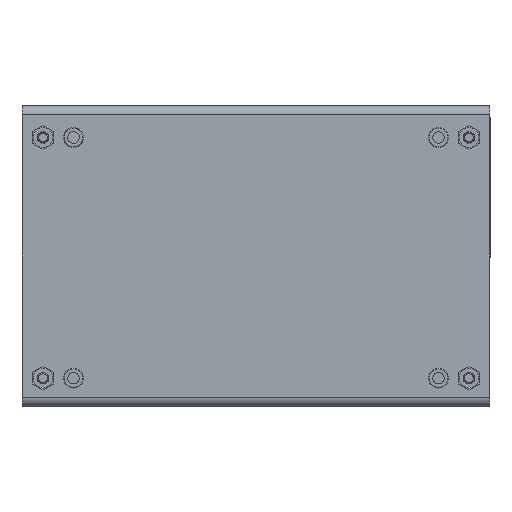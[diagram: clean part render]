
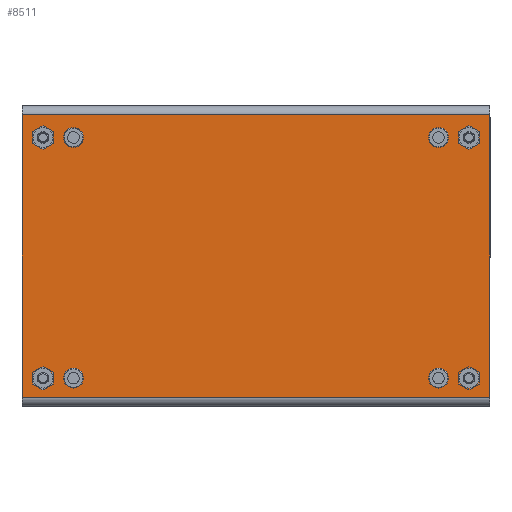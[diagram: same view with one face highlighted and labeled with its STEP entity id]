
A CAD part, front view. The second image highlights one B-rep face of the part: STEP entity #8511.
In plain terms, the highlighted planar face has unit normal (0, -1, 0).
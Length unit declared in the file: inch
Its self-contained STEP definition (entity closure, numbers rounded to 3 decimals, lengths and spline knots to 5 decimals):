
#449 = ORIENTED_EDGE ( 'NONE', *, *, #14475, .T. ) ;
#757 = EDGE_LOOP ( 'NONE', ( #20096 ) ) ;
#794 = FACE_BOUND ( 'NONE', #19135, .T. ) ;
#908 = AXIS2_PLACEMENT_3D ( 'NONE', #19869, #7987, #21825 ) ;
#1424 = CARTESIAN_POINT ( 'NONE',  ( -2.5, 0., -1.50787 ) ) ;
#1911 = DIRECTION ( 'NONE',  ( 0., 0., 1. ) ) ;
#2084 = PLANE ( 'NONE',  #2262 ) ;
#2255 = CARTESIAN_POINT ( 'NONE',  ( 2.5, 0., -1.6063 ) ) ;
#2262 = AXIS2_PLACEMENT_3D ( 'NONE', #2255, #2683, #1911 ) ;
#2346 = EDGE_CURVE ( 'NONE', #18922, #25282, #10644, .T. ) ;
#2683 = DIRECTION ( 'NONE',  ( 0., 1., 0. ) ) ;
#2971 = DIRECTION ( 'NONE',  ( 0., 1., 0. ) ) ;
#3382 = CARTESIAN_POINT ( 'NONE',  ( 1.95, 0., 1.15945 ) ) ;
#3753 = EDGE_CURVE ( 'NONE', #4276, #4276, #4542, .T. ) ;
#4014 = AXIS2_PLACEMENT_3D ( 'NONE', #9498, #9483, #9413 ) ;
#4248 = DIRECTION ( 'NONE',  ( 0., 1., 0. ) ) ;
#4276 = VERTEX_POINT ( 'NONE', #5249 ) ;
#4542 = CIRCLE ( 'NONE', #13299, 0.1063 ) ;
#5245 = ORIENTED_EDGE ( 'NONE', *, *, #24689, .F. ) ;
#5249 = CARTESIAN_POINT ( 'NONE',  ( -1.95, 0., 1.15945 ) ) ;
#5327 = CARTESIAN_POINT ( 'NONE',  ( 1.95, 0., -1.30512 ) ) ;
#5884 = EDGE_CURVE ( 'NONE', #7178, #7178, #14449, .T. ) ;
#5944 = CARTESIAN_POINT ( 'NONE',  ( -1.95, 0., -1.41142 ) ) ;
#6073 = ORIENTED_EDGE ( 'NONE', *, *, #12181, .F. ) ;
#6221 = FACE_OUTER_BOUND ( 'NONE', #7485, .T. ) ;
#6505 = VERTEX_POINT ( 'NONE', #21818 ) ;
#6526 = CARTESIAN_POINT ( 'NONE',  ( 2.5, 0., -1.50787 ) ) ;
#6532 = VERTEX_POINT ( 'NONE', #3382 ) ;
#6703 = DIRECTION ( 'NONE',  ( -1., 0., 0. ) ) ;
#7178 = VERTEX_POINT ( 'NONE', #11400 ) ;
#7376 = DIRECTION ( 'NONE',  ( 0., 0., -1. ) ) ;
#7378 = EDGE_LOOP ( 'NONE', ( #14569 ) ) ;
#7485 = EDGE_LOOP ( 'NONE', ( #6073, #5245, #8749, #10360 ) ) ;
#7502 = FACE_BOUND ( 'NONE', #20685, .T. ) ;
#7613 = EDGE_CURVE ( 'NONE', #6532, #6532, #21737, .T. ) ;
#7912 = CIRCLE ( 'NONE', #7922, 0.1063 ) ;
#7922 = AXIS2_PLACEMENT_3D ( 'NONE', #16265, #4248, #18248 ) ;
#7987 = DIRECTION ( 'NONE',  ( 0., 1., 0. ) ) ;
#8015 = CARTESIAN_POINT ( 'NONE',  ( -2.5, 0., -1.6063 ) ) ;
#8159 = VECTOR ( 'NONE', #8204, 39.37008 ) ;
#8204 = DIRECTION ( 'NONE',  ( 0., 0., 1. ) ) ;
#8429 = AXIS2_PLACEMENT_3D ( 'NONE', #14968, #2971, #16991 ) ;
#8511 = ADVANCED_FACE ( 'NONE', ( #11559, #16839, #7502, #22037, #6221, #794, #21441, #16201, #10943 ), #2084, .F. ) ;
#8749 = ORIENTED_EDGE ( 'NONE', *, *, #2346, .F. ) ;
#9413 = DIRECTION ( 'NONE',  ( 0., 0., -1. ) ) ;
#9483 = DIRECTION ( 'NONE',  ( 0., 1., 0. ) ) ;
#9498 = CARTESIAN_POINT ( 'NONE',  ( -2.27559, 0., 1.26575 ) ) ;
#9526 = ORIENTED_EDGE ( 'NONE', *, *, #21783, .T. ) ;
#10024 = VECTOR ( 'NONE', #6703, 39.37008 ) ;
#10360 = ORIENTED_EDGE ( 'NONE', *, *, #17860, .T. ) ;
#10367 = ORIENTED_EDGE ( 'NONE', *, *, #3753, .T. ) ;
#10482 = CIRCLE ( 'NONE', #908, 0.1063 ) ;
#10644 = LINE ( 'NONE', #6526, #10024 ) ;
#10943 = FACE_BOUND ( 'NONE', #20426, .T. ) ;
#11400 = CARTESIAN_POINT ( 'NONE',  ( -2.27559, 0., -1.41142 ) ) ;
#11559 = FACE_BOUND ( 'NONE', #7378, .T. ) ;
#11616 = EDGE_LOOP ( 'NONE', ( #449 ) ) ;
#11805 = EDGE_LOOP ( 'NONE', ( #9526 ) ) ;
#11859 = AXIS2_PLACEMENT_3D ( 'NONE', #23034, #22855, #22782 ) ;
#12162 = VERTEX_POINT ( 'NONE', #15630 ) ;
#12181 = EDGE_CURVE ( 'NONE', #12246, #21692, #24213, .T. ) ;
#12208 = VECTOR ( 'NONE', #23787, 39.37008 ) ;
#12246 = VERTEX_POINT ( 'NONE', #19104 ) ;
#13197 = DIRECTION ( 'NONE',  ( 0., 0., -1. ) ) ;
#13282 = DIRECTION ( 'NONE',  ( 0., 1., 0. ) ) ;
#13299 = AXIS2_PLACEMENT_3D ( 'NONE', #13360, #13282, #13197 ) ;
#13360 = CARTESIAN_POINT ( 'NONE',  ( -1.95, 0., 1.26575 ) ) ;
#13834 = VECTOR ( 'NONE', #20799, 39.37008 ) ;
#14449 = CIRCLE ( 'NONE', #11859, 0.1063 ) ;
#14475 = EDGE_CURVE ( 'NONE', #12162, #12162, #22050, .T. ) ;
#14569 = ORIENTED_EDGE ( 'NONE', *, *, #22774, .T. ) ;
#14856 = ORIENTED_EDGE ( 'NONE', *, *, #5884, .T. ) ;
#14968 = CARTESIAN_POINT ( 'NONE',  ( -1.95, 0., -1.30512 ) ) ;
#15415 = ORIENTED_EDGE ( 'NONE', *, *, #23183, .T. ) ;
#15476 = EDGE_LOOP ( 'NONE', ( #17457 ) ) ;
#15630 = CARTESIAN_POINT ( 'NONE',  ( -2.27559, 0., 1.15945 ) ) ;
#16201 = FACE_BOUND ( 'NONE', #757, .T. ) ;
#16265 = CARTESIAN_POINT ( 'NONE',  ( 2.27559, 0., 1.26575 ) ) ;
#16839 = FACE_BOUND ( 'NONE', #15476, .T. ) ;
#16881 = AXIS2_PLACEMENT_3D ( 'NONE', #23814, #23794, #23762 ) ;
#16941 = CIRCLE ( 'NONE', #18081, 0.1063 ) ;
#16991 = DIRECTION ( 'NONE',  ( 0., 0., -1. ) ) ;
#17457 = ORIENTED_EDGE ( 'NONE', *, *, #23519, .T. ) ;
#17604 = CARTESIAN_POINT ( 'NONE',  ( 2.5, 0., -1.50787 ) ) ;
#17860 = EDGE_CURVE ( 'NONE', #18922, #21692, #18093, .T. ) ;
#18081 = AXIS2_PLACEMENT_3D ( 'NONE', #5327, #19270, #7376 ) ;
#18093 = LINE ( 'NONE', #20055, #8159 ) ;
#18248 = DIRECTION ( 'NONE',  ( 0., 0., -1. ) ) ;
#18922 = VERTEX_POINT ( 'NONE', #17604 ) ;
#19104 = CARTESIAN_POINT ( 'NONE',  ( -2.5, 0., 1.50787 ) ) ;
#19135 = EDGE_LOOP ( 'NONE', ( #14856 ) ) ;
#19270 = DIRECTION ( 'NONE',  ( 0., 1., 0. ) ) ;
#19869 = CARTESIAN_POINT ( 'NONE',  ( 2.27559, 0., -1.30512 ) ) ;
#20055 = CARTESIAN_POINT ( 'NONE',  ( 2.5, 0., -1.6063 ) ) ;
#20096 = ORIENTED_EDGE ( 'NONE', *, *, #7613, .T. ) ;
#20426 = EDGE_LOOP ( 'NONE', ( #10367 ) ) ;
#20685 = EDGE_LOOP ( 'NONE', ( #15415 ) ) ;
#20799 = DIRECTION ( 'NONE',  ( 1., 0., 0. ) ) ;
#21019 = CARTESIAN_POINT ( 'NONE',  ( 2.5, 0., 1.50787 ) ) ;
#21441 = FACE_BOUND ( 'NONE', #11616, .T. ) ;
#21689 = VERTEX_POINT ( 'NONE', #23759 ) ;
#21692 = VERTEX_POINT ( 'NONE', #25218 ) ;
#21731 = CARTESIAN_POINT ( 'NONE',  ( 2.27559, 0., -1.41142 ) ) ;
#21737 = CIRCLE ( 'NONE', #16881, 0.1063 ) ;
#21783 = EDGE_CURVE ( 'NONE', #23510, #23510, #10482, .T. ) ;
#21818 = CARTESIAN_POINT ( 'NONE',  ( 2.27559, 0., 1.15945 ) ) ;
#21825 = DIRECTION ( 'NONE',  ( 0., 0., -1. ) ) ;
#22037 = FACE_BOUND ( 'NONE', #11805, .T. ) ;
#22050 = CIRCLE ( 'NONE', #4014, 0.1063 ) ;
#22310 = VERTEX_POINT ( 'NONE', #5944 ) ;
#22679 = LINE ( 'NONE', #8015, #12208 ) ;
#22774 = EDGE_CURVE ( 'NONE', #22310, #22310, #23068, .T. ) ;
#22782 = DIRECTION ( 'NONE',  ( 0., 0., -1. ) ) ;
#22855 = DIRECTION ( 'NONE',  ( 0., 1., 0. ) ) ;
#23034 = CARTESIAN_POINT ( 'NONE',  ( -2.27559, 0., -1.30512 ) ) ;
#23068 = CIRCLE ( 'NONE', #8429, 0.1063 ) ;
#23183 = EDGE_CURVE ( 'NONE', #6505, #6505, #7912, .T. ) ;
#23510 = VERTEX_POINT ( 'NONE', #21731 ) ;
#23519 = EDGE_CURVE ( 'NONE', #21689, #21689, #16941, .T. ) ;
#23759 = CARTESIAN_POINT ( 'NONE',  ( 1.95, 0., -1.41142 ) ) ;
#23762 = DIRECTION ( 'NONE',  ( 0., 0., -1. ) ) ;
#23787 = DIRECTION ( 'NONE',  ( 0., 0., 1. ) ) ;
#23794 = DIRECTION ( 'NONE',  ( 0., 1., 0. ) ) ;
#23814 = CARTESIAN_POINT ( 'NONE',  ( 1.95, 0., 1.26575 ) ) ;
#24213 = LINE ( 'NONE', #21019, #13834 ) ;
#24689 = EDGE_CURVE ( 'NONE', #25282, #12246, #22679, .T. ) ;
#25218 = CARTESIAN_POINT ( 'NONE',  ( 2.5, 0., 1.50787 ) ) ;
#25282 = VERTEX_POINT ( 'NONE', #1424 ) ;
